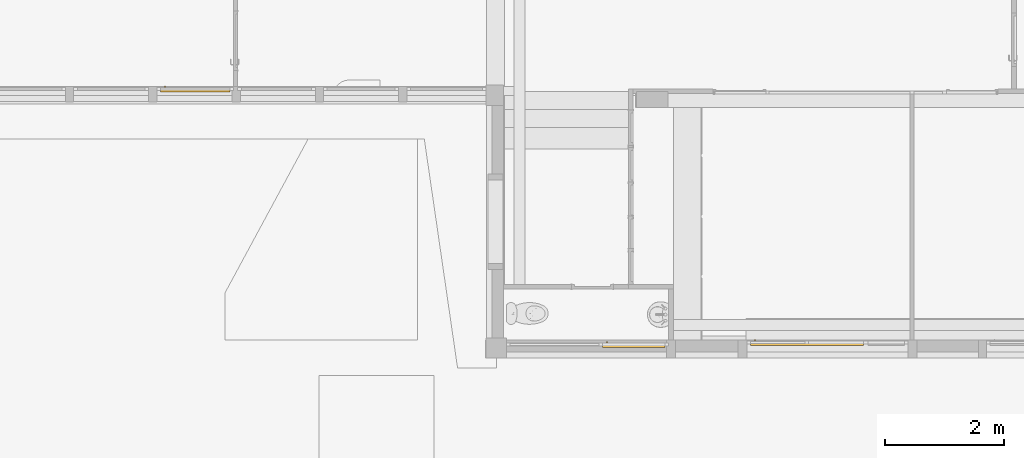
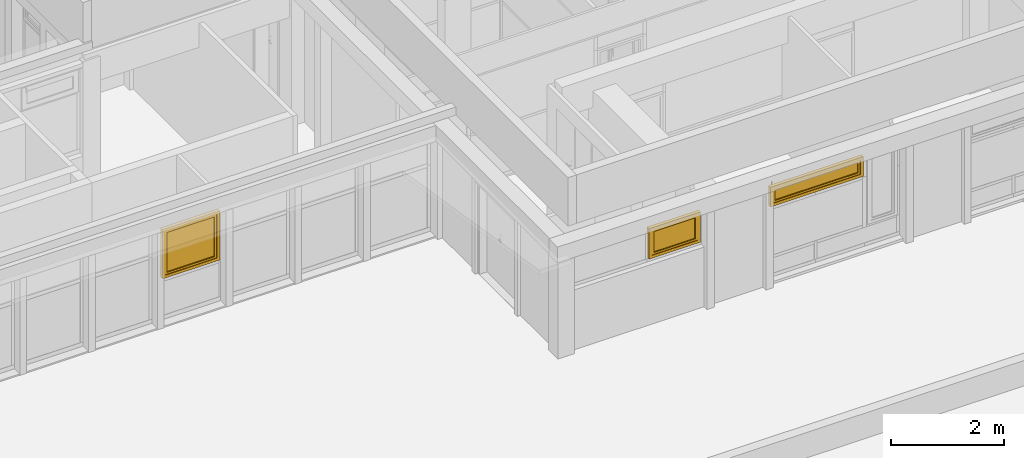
# One storey, part 41 of 49: 3 windows, 3 elements without a shape of their own.
"""IFC4 building model written with IfcOpenShell, lengths in metres."""

from ifc_helpers import new_model, entity, si_unit, converted_unit, derived_unit, direction, frame, origin, place, context, subcontext, project, spatial, polygons, source, transform, mapped, material, material_list, constituent, constituent_set, type_object, type_shapes, element, aggregate, save


model = new_model("IFC4")

# Units and contexts
model_context = context("Model", 3, precision=1e-05, world=origin(), true_north=direction((6.12303176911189e-17, 1.0)))
body_context = subcontext(model_context, "Body", "Model", "MODEL_VIEW")
ifc_project = project(units=[si_unit("LENGTHUNIT", "METRE"), si_unit("AREAUNIT", "SQUARE_METRE"), si_unit("VOLUMEUNIT", "CUBIC_METRE"), converted_unit("PLANEANGLEUNIT", "DEGREE", entity("IfcRatioMeasure", 0.0174532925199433), si_unit("PLANEANGLEUNIT", "RADIAN"), dimensions=[0, 0, 0, 0, 0, 0, 0]), si_unit("MASSUNIT", "GRAM", prefix="KILO"), derived_unit("MASSDENSITYUNIT", [(si_unit("MASSUNIT", "GRAM", prefix="KILO"), 1), (si_unit("LENGTHUNIT", "METRE"), -3)]), derived_unit("MOMENTOFINERTIAUNIT", [(si_unit("LENGTHUNIT", "METRE"), 4)]), si_unit("TIMEUNIT", "SECOND"), si_unit("FREQUENCYUNIT", "HERTZ"), si_unit("THERMODYNAMICTEMPERATUREUNIT", "DEGREE_CELSIUS"), derived_unit("THERMALTRANSMITTANCEUNIT", [(si_unit("MASSUNIT", "GRAM", prefix="KILO"), 1), (si_unit("THERMODYNAMICTEMPERATUREUNIT", "KELVIN"), -1), (si_unit("TIMEUNIT", "SECOND"), -3)]), derived_unit("VOLUMETRICFLOWRATEUNIT", [(si_unit("LENGTHUNIT", "METRE"), 3), (si_unit("TIMEUNIT", "SECOND"), -1)]), si_unit("ELECTRICCURRENTUNIT", "AMPERE"), si_unit("ELECTRICVOLTAGEUNIT", "VOLT"), si_unit("POWERUNIT", "WATT"), si_unit("FORCEUNIT", "NEWTON", prefix="KILO"), si_unit("ILLUMINANCEUNIT", "LUX"), si_unit("LUMINOUSFLUXUNIT", "LUMEN"), si_unit("LUMINOUSINTENSITYUNIT", "CANDELA"), derived_unit("USERDEFINED", [(si_unit("MASSUNIT", "GRAM", prefix="KILO"), -1), (si_unit("LENGTHUNIT", "METRE"), -2), (si_unit("TIMEUNIT", "SECOND"), 3), (si_unit("LUMINOUSFLUXUNIT", "LUMEN"), 1)]), derived_unit("LINEARVELOCITYUNIT", [(si_unit("LENGTHUNIT", "METRE"), 1), (si_unit("TIMEUNIT", "SECOND"), -1)]), si_unit("PRESSUREUNIT", "PASCAL"), derived_unit("USERDEFINED", [(si_unit("LENGTHUNIT", "METRE"), -2), (si_unit("MASSUNIT", "GRAM", prefix="KILO"), 1), (si_unit("TIMEUNIT", "SECOND"), -2)]), derived_unit("LINEARFORCEUNIT", [(si_unit("MASSUNIT", "GRAM", prefix="KILO"), 1), (si_unit("LENGTHUNIT", "METRE"), 1), (si_unit("TIMEUNIT", "SECOND"), -2), (si_unit("LENGTHUNIT", "METRE"), -1)]), derived_unit("PLANARFORCEUNIT", [(si_unit("MASSUNIT", "GRAM", prefix="KILO"), 1), (si_unit("LENGTHUNIT", "METRE"), 1), (si_unit("TIMEUNIT", "SECOND"), -2), (si_unit("LENGTHUNIT", "METRE"), -2)])], contexts=[model_context])

# Site, building, storey
site_placement = place(None, origin())
site = spatial("IfcSite", under=ifc_project, at=site_placement, Name="Default", CompositionType="ELEMENT")
building_placement = place(site_placement, origin())
building = spatial("IfcBuilding", under=site, at=building_placement, Name="HOTEL CONSULAIRE BOULOGNE SUR MER", CompositionType="ELEMENT")
storey_placement = place(building_placement, frame((0.0, 0.0, 6.81974152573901)))
storey = spatial("IfcBuildingStorey", under=building, at=storey_placement, Name="Niveau 2", CompositionType="ELEMENT", Elevation=6.81974152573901)

# Curtain wall, window
curtain_wall_type = type_object("IfcCurtainWallType", Name="Mur-rideau:Simple panneau", PredefinedType="NOTDEFINED")
curtain_wall_1_placement = place(storey_placement, frame((0.0, 0.0, -6.81974152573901)))
curtain_wall_1 = element("IfcCurtainWall", 1, at=curtain_wall_1_placement, inside=storey, type_object=curtain_wall_type, Name="Mur-rideau:Simple panneau", ObjectType="Mur-rideau:Simple panneau", PredefinedType="NOTDEFINED")
ifc_material_1 = material(Name="PVC - Blanc", Category="Plastique")
ifc_constituent_1 = constituent(ifc_material_1, Name="PVC - Blanc", Category="Matériaux")
ifc_material_2 = material(Name="Fenêtre - Vitrage", Category="Verre")
ifc_constituent_2 = constituent(ifc_material_2, Name="Fenêtre - Vitrage", Category="Matériaux")
ifc_constituent_set_1 = constituent_set(constituents=[ifc_constituent_1, ifc_constituent_2], Name="MaterialConstituentSet")
ifc_material_list_1 = material_list([ifc_material_1, ifc_material_1])
window_type_1 = type_object("IfcWindowType", Name="MR 1 Vantail:MR 1 Vantail", PartitioningType="NOTDEFINED", PredefinedType="WINDOW", material=ifc_material_list_1)
shared_shape_1 = source(origin(), body_context, "Body", "Tessellation", [
    polygons([(-0.514128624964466, 0.0492408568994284, 0.472033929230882), (-0.515516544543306, 0.0492408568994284, 0.470646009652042), (-0.515516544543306, 0.0492408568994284, 0.459332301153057), (-0.51415031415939, 0.0492408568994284, 0.457966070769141), (-0.502814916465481, 0.0492408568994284, 0.457966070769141), (-0.501448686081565, 0.0492408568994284, 0.459332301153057), (-0.501448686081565, 0.0492408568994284, 0.470646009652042), (-0.502836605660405, 0.0492408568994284, 0.472033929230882), (-0.514128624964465, 0.0621544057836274, 0.472033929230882), (-0.515516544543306, 0.0615795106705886, 0.470646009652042), (-0.515516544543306, 0.0748868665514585, 0.457338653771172), (-0.515516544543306, 0.0748868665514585, 0.370000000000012), (-0.515516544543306, 0.0635731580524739, 0.370000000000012), (-0.515516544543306, 0.063573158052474, 0.452652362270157), (-0.515516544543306, 0.0568932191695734, 0.459332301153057), (-0.51415031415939, 0.0563273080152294, 0.457966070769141), (-0.502814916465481, 0.0563273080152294, 0.457966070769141), (-0.501448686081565, 0.0568932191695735, 0.459332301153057), (-0.501448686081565, 0.063573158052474, 0.452652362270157), (-0.501448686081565, 0.063573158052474, 0.370000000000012), (-0.501448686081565, 0.0748868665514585, 0.370000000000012), (-0.501448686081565, 0.0748868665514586, 0.457338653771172), (-0.501448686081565, 0.0615795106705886, 0.470646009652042), (-0.502836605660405, 0.0621544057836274, 0.472033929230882), (-0.514128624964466, 0.0762747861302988, 0.457913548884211), (-0.51415031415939, 0.0622069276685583, 0.452086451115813), (-0.502814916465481, 0.0622069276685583, 0.452086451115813), (-0.502836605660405, 0.0762747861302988, 0.457913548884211), (-0.514128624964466, 0.0762747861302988, 0.370000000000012), (-0.502836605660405, 0.0762747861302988, 0.370000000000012), (-0.502814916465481, 0.0622069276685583, 0.370000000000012), (-0.51415031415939, 0.0622069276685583, 0.370000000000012)], [[[5, 6, 7, 8, 1, 2, 3, 4]], [[27, 26, 32, 31]], [[2, 1, 9, 10]], [[2, 10, 11, 12, 13, 14, 15, 3]], [[4, 3, 15, 16]], [[5, 4, 16, 17]], [[32, 13, 12, 29, 30, 21, 20, 31]], [[6, 5, 17, 18]], [[6, 18, 19, 20, 21, 22, 23, 7]], [[8, 7, 23, 24]], [[1, 8, 24, 9]], [[10, 9, 25, 11]], [[16, 15, 14, 26]], [[17, 16, 26, 27]], [[18, 17, 27, 19]], [[24, 23, 22, 28]], [[9, 24, 28, 25]], [[11, 25, 29, 12]], [[26, 14, 13, 32]], [[19, 27, 31, 20]], [[28, 22, 21, 30]], [[25, 28, 30, 29]]], closed=True),
    polygons([(-0.51548261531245, 0.0432408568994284, 0.490000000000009), (-0.520482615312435, 0.0432408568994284, 0.48500000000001), (-0.520482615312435, 0.0432408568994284, 0.414999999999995), (-0.51548261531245, 0.0432408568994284, 0.410000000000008), (-0.501482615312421, 0.0432408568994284, 0.410000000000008), (-0.496482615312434, 0.0432408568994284, 0.414999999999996), (-0.496482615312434, 0.0432408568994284, 0.48500000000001), (-0.501482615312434, 0.0432408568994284, 0.490000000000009), (-0.51548261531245, 0.0492408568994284, 0.490000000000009), (-0.501482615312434, 0.0492408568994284, 0.490000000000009), (-0.496482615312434, 0.0492408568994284, 0.48500000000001), (-0.496482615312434, 0.0492408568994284, 0.414999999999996), (-0.501482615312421, 0.0492408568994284, 0.410000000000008), (-0.51548261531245, 0.0492408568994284, 0.410000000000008), (-0.520482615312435, 0.0492408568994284, 0.414999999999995), (-0.520482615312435, 0.0492408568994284, 0.48500000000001)], [[[1, 2, 3, 4, 5, 6, 7, 8]], [[14, 15, 16, 9, 10, 11, 12, 13]], [[2, 1, 9, 16]], [[3, 2, 16, 15]], [[4, 3, 15, 14]], [[5, 4, 14, 13]], [[6, 5, 13, 12]], [[7, 6, 12, 11]], [[8, 7, 11, 10]], [[1, 8, 10, 9]]], closed=True),
    polygons([(0.48348261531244, 0.0192408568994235, 0.95789394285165), (0.48348261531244, 0.0192408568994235, 0.0999999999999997), (-0.48348261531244, 0.0192408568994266, 0.0999999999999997), (-0.483482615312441, 0.0192408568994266, 0.95789394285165), (0.48348261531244, 0.0072408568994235, 0.95789394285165), (-0.483482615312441, 0.00724085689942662, 0.95789394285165), (-0.483482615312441, 0.00724085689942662, 0.0999999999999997), (0.48348261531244, 0.0072408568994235, 0.0999999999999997)], [[[4, 1, 2, 3]], [[5, 6, 7, 8]], [[5, 1, 4, 6]], [[6, 4, 3, 7]], [[7, 3, 2, 8]], [[8, 2, 1, 5]]], closed=True),
    polygons([(-0.53348261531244, -0.0167591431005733, 1.00789394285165), (0.53348261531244, -0.0167591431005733, 1.00789394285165), (0.53348261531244, 0.043240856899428, 1.00789394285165), (-0.53348261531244, 0.043240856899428, 1.00789394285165), (-0.48348261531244, 0.043240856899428, 0.95789394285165), (0.48348261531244, 0.043240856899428, 0.95789394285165), (0.48348261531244, -0.0167591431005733, 0.95789394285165), (-0.48348261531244, -0.0167591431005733, 0.95789394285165), (0.53348261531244, -0.0167591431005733, 0.0500000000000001), (0.53348261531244, 0.043240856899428, 0.0500000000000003), (0.48348261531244, 0.043240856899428, 0.0999999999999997), (0.48348261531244, -0.0167591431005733, 0.0999999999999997), (-0.53348261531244, -0.0167591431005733, 0.0500000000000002), (-0.53348261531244, 0.043240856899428, 0.0500000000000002), (-0.48348261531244, 0.043240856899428, 0.0999999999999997), (-0.48348261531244, -0.0167591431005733, 0.0999999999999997)], [[[3, 4, 1, 2]], [[15, 16, 12, 11]], [[6, 7, 8, 5]], [[14, 10, 9, 13]], [[10, 3, 2, 9]], [[8, 16, 15, 5]], [[12, 7, 6, 11]], [[1, 4, 14, 13]], [[10, 14, 4, 3], [15, 11, 6, 5]], [[13, 9, 2, 1], [12, 16, 8, 7]]], closed=True),
    polygons([(-0.52348261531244, -0.016759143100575, 0.997893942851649), (0.52348261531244, -0.016759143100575, 0.997893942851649), (0.52348261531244, -0.0267591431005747, 0.997893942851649), (-0.52348261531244, -0.0267591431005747, 0.997893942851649), (-0.53348261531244, 0.0432408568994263, 1.00789394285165), (0.53348261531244, 0.0432408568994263, 1.00789394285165), (0.53348261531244, -0.016759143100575, 1.00789394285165), (-0.53348261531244, -0.016759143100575, 1.00789394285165), (-0.58348261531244, -0.0267591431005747, 1.05789394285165), (0.58348261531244, -0.0267591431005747, 1.05789394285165), (0.58348261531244, 0.0432408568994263, 1.05789394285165), (-0.58348261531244, 0.0432408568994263, 1.05789394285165), (0.52348261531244, -0.016759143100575, 0.0600000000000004), (0.52348261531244, -0.0267591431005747, 0.0600000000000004), (0.53348261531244, 0.0432408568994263, 0.0500000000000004), (0.53348261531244, -0.016759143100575, 0.0500000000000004), (0.58348261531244, -0.0267591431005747, 4.06075173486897e-16), (0.58348261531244, 0.0432408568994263, 4.06075173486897e-16), (-0.52348261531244, -0.016759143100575, 0.0600000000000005), (-0.52348261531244, -0.0267591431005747, 0.0600000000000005), (-0.53348261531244, 0.0432408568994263, 0.0500000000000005), (-0.53348261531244, -0.016759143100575, 0.0500000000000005), (-0.58348261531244, -0.0267591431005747, 4.06075173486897e-16), (-0.58348261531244, 0.0432408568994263, 4.06075173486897e-16)], [[[2, 3, 4, 1]], [[6, 7, 8, 5]], [[23, 24, 18, 17]], [[10, 11, 12, 9]], [[19, 20, 14, 13]], [[21, 22, 16, 15]], [[14, 3, 2, 13]], [[16, 7, 6, 15]], [[9, 12, 24, 23]], [[17, 18, 11, 10]], [[4, 20, 19, 1]], [[8, 22, 21, 5]], [[23, 17, 10, 9], [14, 20, 4, 3]], [[16, 22, 8, 7], [19, 13, 2, 1]], [[18, 24, 12, 11], [21, 15, 6, 5]]], closed=True),
])
type_shapes(window_type_1, [shared_shape_1])
window_1_placement = place(curtain_wall_1_placement, frame((6.48769415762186, -19.6319143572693, 8.39074152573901)))
window_1 = element("IfcWindow", 2, at=window_1_placement, type_object=window_type_1, material=ifc_constituent_set_1, Name="MR 1 Vantail:MR 1 Vantail", ObjectType="MR 1 Vantail:MR 1 Vantail", OverallHeight=1.05789394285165, OverallWidth=1.16696523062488, PartitioningType="NOTDEFINED", PredefinedType="WINDOW", context=body_context, shape_type="MappedRepresentation", body=[
    mapped(shared_shape_1, transform((0.0, 0.0, 0.0), scale=1.0)),
])
aggregate(curtain_wall_1, [window_1])

curtain_wall_2_placement = place(storey_placement, frame((0.0, 0.0, -6.81974152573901)))
curtain_wall_2 = element("IfcCurtainWall", 3, at=curtain_wall_2_placement, inside=storey, type_object=curtain_wall_type, Name="Mur-rideau:Simple panneau", ObjectType="Mur-rideau:Simple panneau", PredefinedType="NOTDEFINED")
ifc_constituent_3 = constituent(ifc_material_1, Name="PVC - Blanc", Category="Matériaux")
ifc_constituent_4 = constituent(ifc_material_2, Name="Fenêtre - Vitrage", Category="Matériaux")
ifc_constituent_set_2 = constituent_set(constituents=[ifc_constituent_3, ifc_constituent_4], Name="MaterialConstituentSet")
ifc_material_list_2 = material_list([ifc_material_1, ifc_material_1])
window_type_2 = type_object("IfcWindowType", Name="MR 1 Vantail:MR 1 Vantail", PartitioningType="NOTDEFINED", PredefinedType="WINDOW", material=ifc_material_list_2)
shared_shape_2 = source(origin(), body_context, "Body", "Tessellation", [
    polygons([(-0.878646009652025, 0.0492408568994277, 0.472033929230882), (-0.880033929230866, 0.0492408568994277, 0.470646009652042), (-0.880033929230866, 0.0492408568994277, 0.459332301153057), (-0.87866769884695, 0.0492408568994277, 0.457966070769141), (-0.867332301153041, 0.0492408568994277, 0.457966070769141), (-0.865966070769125, 0.0492408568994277, 0.459332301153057), (-0.865966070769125, 0.0492408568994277, 0.470646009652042), (-0.867353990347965, 0.0492408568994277, 0.472033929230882), (-0.878646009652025, 0.0621544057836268, 0.472033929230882), (-0.880033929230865, 0.061579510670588, 0.470646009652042), (-0.880033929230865, 0.0748868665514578, 0.457338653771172), (-0.880033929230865, 0.0748868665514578, 0.370000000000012), (-0.880033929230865, 0.0635731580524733, 0.370000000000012), (-0.880033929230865, 0.0635731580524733, 0.452652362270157), (-0.880033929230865, 0.0568932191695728, 0.459332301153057), (-0.87866769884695, 0.0563273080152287, 0.457966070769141), (-0.867332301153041, 0.0563273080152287, 0.457966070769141), (-0.865966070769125, 0.0568932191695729, 0.459332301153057), (-0.865966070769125, 0.0635731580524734, 0.452652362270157), (-0.865966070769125, 0.0635731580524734, 0.370000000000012), (-0.865966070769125, 0.0748868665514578, 0.370000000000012), (-0.865966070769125, 0.0748868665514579, 0.457338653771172), (-0.865966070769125, 0.061579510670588, 0.470646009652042), (-0.867353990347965, 0.0621544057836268, 0.472033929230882), (-0.878646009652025, 0.0762747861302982, 0.457913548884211), (-0.87866769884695, 0.0622069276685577, 0.452086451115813), (-0.867332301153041, 0.0622069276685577, 0.452086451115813), (-0.867353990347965, 0.0762747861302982, 0.457913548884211), (-0.878646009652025, 0.0762747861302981, 0.370000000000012), (-0.867353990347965, 0.0762747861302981, 0.370000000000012), (-0.867332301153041, 0.0622069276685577, 0.370000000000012), (-0.87866769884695, 0.0622069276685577, 0.370000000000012)], [[[5, 6, 7, 8, 1, 2, 3, 4]], [[27, 26, 32, 31]], [[2, 1, 9, 10]], [[2, 10, 11, 12, 13, 14, 15, 3]], [[4, 3, 15, 16]], [[5, 4, 16, 17]], [[32, 13, 12, 29, 30, 21, 20, 31]], [[6, 5, 17, 18]], [[6, 18, 19, 20, 21, 22, 23, 7]], [[8, 7, 23, 24]], [[1, 8, 24, 9]], [[10, 9, 25, 11]], [[16, 15, 14, 26]], [[17, 16, 26, 27]], [[18, 17, 27, 19]], [[24, 23, 22, 28]], [[9, 24, 28, 25]], [[11, 25, 29, 12]], [[26, 14, 13, 32]], [[19, 27, 31, 20]], [[28, 22, 21, 30]], [[25, 28, 30, 29]]], closed=True),
    polygons([(-0.880000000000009, 0.0432408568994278, 0.490000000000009), (-0.884999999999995, 0.0432408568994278, 0.48500000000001), (-0.884999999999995, 0.0432408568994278, 0.414999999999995), (-0.880000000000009, 0.0432408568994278, 0.410000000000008), (-0.865999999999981, 0.0432408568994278, 0.410000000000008), (-0.860999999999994, 0.0432408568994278, 0.414999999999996), (-0.860999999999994, 0.0432408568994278, 0.48500000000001), (-0.865999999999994, 0.0432408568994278, 0.490000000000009), (-0.880000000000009, 0.0492408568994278, 0.490000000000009), (-0.865999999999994, 0.0492408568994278, 0.490000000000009), (-0.860999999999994, 0.0492408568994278, 0.48500000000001), (-0.860999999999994, 0.0492408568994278, 0.414999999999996), (-0.865999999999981, 0.0492408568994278, 0.410000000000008), (-0.880000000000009, 0.0492408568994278, 0.410000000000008), (-0.884999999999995, 0.0492408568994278, 0.414999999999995), (-0.884999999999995, 0.0492408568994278, 0.48500000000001)], [[[1, 2, 3, 4, 5, 6, 7, 8]], [[14, 15, 16, 9, 10, 11, 12, 13]], [[2, 1, 9, 16]], [[3, 2, 16, 15]], [[4, 3, 15, 14]], [[5, 4, 14, 13]], [[6, 5, 13, 12]], [[7, 6, 12, 11]], [[8, 7, 11, 10]], [[1, 8, 10, 9]]], closed=True),
    polygons([(0.848, 0.0192408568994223, 0.32200000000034), (0.848, 0.0192408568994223, 0.0999999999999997), (-0.848, 0.0192408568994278, 0.0999999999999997), (-0.848, 0.0192408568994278, 0.32200000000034), (0.848, 0.00724085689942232, 0.32200000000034), (-0.848, 0.00724085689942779, 0.32200000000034), (-0.848, 0.00724085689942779, 0.0999999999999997), (0.848, 0.00724085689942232, 0.0999999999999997)], [[[3, 4, 1, 2]], [[8, 5, 6, 7]], [[6, 5, 1, 4]], [[7, 6, 4, 3]], [[7, 3, 2, 8]], [[5, 8, 2, 1]]], closed=True),
    polygons([(-0.898, -0.0167591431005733, 0.372000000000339), (0.898, -0.0167591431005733, 0.372000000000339), (0.898, 0.043240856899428, 0.372000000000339), (-0.898, 0.043240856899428, 0.372000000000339), (-0.848, 0.043240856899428, 0.32200000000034), (0.848, 0.043240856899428, 0.32200000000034), (0.848, -0.0167591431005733, 0.32200000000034), (-0.848, -0.0167591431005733, 0.32200000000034), (0.898, -0.0167591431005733, 0.0500000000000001), (0.898, 0.043240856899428, 0.0500000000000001), (0.848, 0.043240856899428, 0.0999999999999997), (0.848, -0.0167591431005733, 0.0999999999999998), (-0.898, -0.0167591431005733, 0.05), (-0.898, 0.043240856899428, 0.05), (-0.848, 0.043240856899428, 0.0999999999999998), (-0.848, -0.0167591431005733, 0.0999999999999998)], [[[2, 3, 4, 1]], [[16, 12, 11, 15]], [[7, 8, 5, 6]], [[13, 14, 10, 9]], [[10, 3, 2, 9]], [[5, 8, 16, 15]], [[12, 7, 6, 11]], [[4, 14, 13, 1]], [[14, 4, 3, 10], [11, 6, 5, 15]], [[9, 2, 1, 13], [16, 8, 7, 12]]], closed=True),
    polygons([(-0.888, -0.016759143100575, 0.362000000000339), (0.888, -0.016759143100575, 0.362000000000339), (0.888, -0.0267591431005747, 0.362000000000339), (-0.888, -0.0267591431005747, 0.362000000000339), (-0.898, 0.0432408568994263, 0.372000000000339), (0.898, 0.0432408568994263, 0.372000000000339), (0.898, -0.016759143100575, 0.372000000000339), (-0.898, -0.016759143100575, 0.372000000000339), (-0.948, -0.0267591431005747, 0.422000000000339), (0.948, -0.0267591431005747, 0.422000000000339), (0.947999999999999, 0.0432408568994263, 0.422000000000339), (-0.948, 0.0432408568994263, 0.422000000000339), (0.888, -0.016759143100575, 0.0600000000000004), (0.888, -0.0267591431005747, 0.0600000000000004), (0.898, 0.0432408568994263, 0.0500000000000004), (0.898, -0.016759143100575, 0.0500000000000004), (0.948, -0.0267591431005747, 4.06075173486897e-16), (0.948, 0.0432408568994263, 4.06075173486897e-16), (-0.888, -0.016759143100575, 0.0600000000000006), (-0.888, -0.0267591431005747, 0.0600000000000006), (-0.898, 0.0432408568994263, 0.0500000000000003), (-0.898, -0.016759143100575, 0.0500000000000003), (-0.948, -0.0267591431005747, 4.73754369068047e-16), (-0.947999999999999, 0.0432408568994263, 4.73754369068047e-16)], [[[2, 3, 4, 1]], [[6, 7, 8, 5]], [[24, 18, 17, 23]], [[11, 12, 9, 10]], [[19, 20, 14, 13]], [[21, 22, 16, 15]], [[14, 3, 2, 13]], [[15, 16, 7, 6]], [[12, 24, 23, 9]], [[18, 11, 10, 17]], [[4, 20, 19, 1]], [[5, 8, 22, 21]], [[17, 10, 9, 23], [20, 4, 3, 14]], [[22, 8, 7, 16], [13, 2, 1, 19]], [[24, 12, 11, 18], [15, 6, 5, 21]]], closed=True),
])
type_shapes(window_type_2, [shared_shape_2])
window_2_placement = place(curtain_wall_2_placement, frame((16.7700413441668, -23.8933633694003, 9.04974152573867)))
window_2 = element("IfcWindow", 4, at=window_2_placement, type_object=window_type_2, material=ifc_constituent_set_2, Name="MR 1 Vantail:MR 1 Vantail", ObjectType="MR 1 Vantail:MR 1 Vantail", OverallHeight=0.490000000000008, OverallWidth=1.896, PartitioningType="NOTDEFINED", PredefinedType="WINDOW", context=body_context, shape_type="MappedRepresentation", body=[
    mapped(shared_shape_2, transform((0.0, 0.0, 0.0), scale=1.0)),
])
aggregate(curtain_wall_2, [window_2])

curtain_wall_3_placement = place(storey_placement, frame((0.0, 0.0, -6.81974152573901)))
curtain_wall_3 = element("IfcCurtainWall", 5, at=curtain_wall_3_placement, inside=storey, type_object=curtain_wall_type, Name="Mur-rideau:Simple panneau", ObjectType="Mur-rideau:Simple panneau", PredefinedType="NOTDEFINED")
ifc_constituent_5 = constituent(ifc_material_1, Name="PVC - Blanc", Category="Matériaux")
ifc_constituent_6 = constituent(ifc_material_2, Name="Fenêtre - Vitrage", Category="Matériaux")
ifc_constituent_set_3 = constituent_set(constituents=[ifc_constituent_5, ifc_constituent_6], Name="MaterialConstituentSet")
ifc_material_list_3 = material_list([ifc_material_1, ifc_material_1])
window_type_3 = type_object("IfcWindowType", Name="MR 1 Vantail:MR 1 Vantail", PartitioningType="NOTDEFINED", PredefinedType="WINDOW", material=ifc_material_list_3)
shared_shape_3 = source(origin(), body_context, "Body", "Tessellation", [
    polygons([(-0.454146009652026, 0.0492408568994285, 0.472033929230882), (-0.455533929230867, 0.0492408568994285, 0.470646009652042), (-0.455533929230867, 0.0492408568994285, 0.459332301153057), (-0.454167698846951, 0.0492408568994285, 0.457966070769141), (-0.442832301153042, 0.0492408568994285, 0.457966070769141), (-0.441466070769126, 0.0492408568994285, 0.459332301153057), (-0.441466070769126, 0.0492408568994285, 0.470646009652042), (-0.442853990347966, 0.0492408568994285, 0.472033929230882), (-0.454146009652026, 0.0621544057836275, 0.472033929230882), (-0.455533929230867, 0.0615795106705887, 0.470646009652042), (-0.455533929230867, 0.0748868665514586, 0.457338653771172), (-0.455533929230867, 0.0748868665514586, 0.370000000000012), (-0.455533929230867, 0.063573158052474, 0.370000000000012), (-0.455533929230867, 0.0635731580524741, 0.452652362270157), (-0.455533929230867, 0.0568932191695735, 0.459332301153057), (-0.454167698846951, 0.0563273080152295, 0.457966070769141), (-0.442832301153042, 0.0563273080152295, 0.457966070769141), (-0.441466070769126, 0.0568932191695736, 0.459332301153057), (-0.441466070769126, 0.0635731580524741, 0.452652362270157), (-0.441466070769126, 0.0635731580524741, 0.370000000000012), (-0.441466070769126, 0.0748868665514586, 0.370000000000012), (-0.441466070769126, 0.0748868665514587, 0.457338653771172), (-0.441466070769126, 0.0615795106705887, 0.470646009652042), (-0.442853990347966, 0.0621544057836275, 0.472033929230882), (-0.454146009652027, 0.0762747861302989, 0.457913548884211), (-0.454167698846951, 0.0622069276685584, 0.452086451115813), (-0.442832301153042, 0.0622069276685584, 0.452086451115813), (-0.442853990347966, 0.0762747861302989, 0.457913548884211), (-0.454146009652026, 0.0762747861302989, 0.370000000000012), (-0.442853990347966, 0.0762747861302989, 0.370000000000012), (-0.442832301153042, 0.0622069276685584, 0.370000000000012), (-0.454167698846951, 0.0622069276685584, 0.370000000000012)], [[[5, 6, 7, 8, 1, 2, 3, 4]], [[27, 26, 32, 31]], [[2, 1, 9, 10]], [[2, 10, 11, 12, 13, 14, 15, 3]], [[4, 3, 15, 16]], [[5, 4, 16, 17]], [[32, 13, 12, 29, 30, 21, 20, 31]], [[6, 5, 17, 18]], [[6, 18, 19, 20, 21, 22, 23, 7]], [[8, 7, 23, 24]], [[1, 8, 24, 9]], [[10, 9, 25, 11]], [[16, 15, 14, 26]], [[17, 16, 26, 27]], [[18, 17, 27, 19]], [[24, 23, 22, 28]], [[9, 24, 28, 25]], [[11, 25, 29, 12]], [[26, 14, 13, 32]], [[19, 27, 31, 20]], [[28, 22, 21, 30]], [[25, 28, 30, 29]]], closed=True),
    polygons([(-0.455500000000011, 0.0432408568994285, 0.490000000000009), (-0.460499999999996, 0.0432408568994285, 0.48500000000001), (-0.460499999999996, 0.0432408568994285, 0.414999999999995), (-0.455500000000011, 0.0432408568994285, 0.410000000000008), (-0.441499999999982, 0.0432408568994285, 0.410000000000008), (-0.436499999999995, 0.0432408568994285, 0.414999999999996), (-0.436499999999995, 0.0432408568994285, 0.48500000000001), (-0.441499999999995, 0.0432408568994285, 0.490000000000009), (-0.455500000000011, 0.0492408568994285, 0.490000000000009), (-0.441499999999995, 0.0492408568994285, 0.490000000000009), (-0.436499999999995, 0.0492408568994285, 0.48500000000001), (-0.436499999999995, 0.0492408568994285, 0.414999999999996), (-0.441499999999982, 0.0492408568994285, 0.410000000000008), (-0.455500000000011, 0.0492408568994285, 0.410000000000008), (-0.460499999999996, 0.0492408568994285, 0.414999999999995), (-0.460499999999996, 0.0492408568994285, 0.48500000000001)], [[[1, 2, 3, 4, 5, 6, 7, 8]], [[14, 15, 16, 9, 10, 11, 12, 13]], [[2, 1, 9, 16]], [[3, 2, 16, 15]], [[4, 3, 15, 14]], [[5, 4, 14, 13]], [[6, 5, 13, 12]], [[7, 6, 12, 11]], [[8, 7, 11, 10]], [[1, 8, 10, 9]]], closed=True),
    polygons([(0.423500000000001, 0.0192408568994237, 0.552628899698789), (0.423500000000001, 0.0192408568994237, 0.0999999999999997), (-0.423500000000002, 0.0192408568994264, 0.0999999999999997), (-0.423500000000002, 0.0192408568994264, 0.552628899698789), (0.423500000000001, 0.00724085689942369, 0.552628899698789), (-0.423500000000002, 0.00724085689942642, 0.552628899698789), (-0.423500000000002, 0.00724085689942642, 0.0999999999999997), (0.423500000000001, 0.00724085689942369, 0.0999999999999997)], [[[4, 1, 2, 3]], [[5, 6, 7, 8]], [[5, 1, 4, 6]], [[6, 4, 3, 7]], [[7, 3, 2, 8]], [[8, 2, 1, 5]]], closed=True),
    polygons([(-0.473500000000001, -0.0167591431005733, 0.602628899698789), (0.473500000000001, -0.0167591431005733, 0.602628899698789), (0.473500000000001, 0.043240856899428, 0.602628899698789), (-0.473500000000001, 0.043240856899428, 0.602628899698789), (-0.423500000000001, 0.043240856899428, 0.552628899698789), (0.423500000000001, 0.043240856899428, 0.552628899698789), (0.423500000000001, -0.0167591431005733, 0.552628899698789), (-0.423500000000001, -0.0167591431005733, 0.552628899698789), (0.473500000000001, -0.0167591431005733, 0.0500000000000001), (0.473500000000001, 0.043240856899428, 0.0500000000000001), (0.423500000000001, 0.043240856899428, 0.0999999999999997), (0.423500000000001, -0.0167591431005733, 0.0999999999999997), (-0.473500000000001, -0.0167591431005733, 0.0500000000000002), (-0.473500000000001, 0.043240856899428, 0.0500000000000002), (-0.423500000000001, 0.043240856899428, 0.0999999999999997), (-0.423500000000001, -0.0167591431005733, 0.0999999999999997)], [[[3, 4, 1, 2]], [[16, 12, 11, 15]], [[7, 8, 5, 6]], [[14, 10, 9, 13]], [[9, 10, 3, 2]], [[5, 8, 16, 15]], [[11, 12, 7, 6]], [[1, 4, 14, 13]], [[10, 14, 4, 3], [15, 11, 6, 5]], [[13, 9, 2, 1], [12, 16, 8, 7]]], closed=True),
    polygons([(-0.463500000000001, -0.016759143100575, 0.592628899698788), (0.463500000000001, -0.016759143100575, 0.592628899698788), (0.463500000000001, -0.0267591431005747, 0.592628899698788), (-0.463500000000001, -0.0267591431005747, 0.592628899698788), (-0.473500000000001, 0.0432408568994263, 0.602628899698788), (0.473500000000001, 0.0432408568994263, 0.602628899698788), (0.473500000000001, -0.016759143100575, 0.602628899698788), (-0.473500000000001, -0.016759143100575, 0.602628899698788), (-0.523500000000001, -0.0267591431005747, 0.652628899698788), (0.523500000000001, -0.0267591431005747, 0.652628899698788), (0.523500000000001, 0.0432408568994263, 0.652628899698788), (-0.523500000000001, 0.0432408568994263, 0.652628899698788), (0.463500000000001, -0.016759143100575, 0.0600000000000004), (0.463500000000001, -0.0267591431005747, 0.0600000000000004), (0.473500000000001, 0.0432408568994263, 0.0500000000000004), (0.473500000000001, -0.016759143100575, 0.0500000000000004), (0.523500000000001, -0.0267591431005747, 4.06075173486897e-16), (0.523500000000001, 0.0432408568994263, 4.06075173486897e-16), (-0.463500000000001, -0.016759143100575, 0.0600000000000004), (-0.463500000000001, -0.0267591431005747, 0.0600000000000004), (-0.473500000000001, 0.0432408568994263, 0.0500000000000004), (-0.473500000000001, -0.016759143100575, 0.0500000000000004), (-0.523500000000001, -0.0267591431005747, 3.38395977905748e-16), (-0.523500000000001, 0.0432408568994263, 3.38395977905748e-16)], [[[3, 4, 1, 2]], [[6, 7, 8, 5]], [[24, 18, 17, 23]], [[11, 12, 9, 10]], [[20, 14, 13, 19]], [[21, 22, 16, 15]], [[14, 3, 2, 13]], [[15, 16, 7, 6]], [[9, 12, 24, 23]], [[17, 18, 11, 10]], [[4, 20, 19, 1]], [[5, 8, 22, 21]], [[23, 17, 10, 9], [14, 20, 4, 3]], [[16, 22, 8, 7], [19, 13, 2, 1]], [[18, 24, 12, 11], [21, 15, 6, 5]]], closed=True),
])
type_shapes(window_type_3, [shared_shape_3])
window_3_placement = place(curtain_wall_3_placement, frame((13.8584086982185, -23.9271007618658, 8.81911262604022)))
window_3 = element("IfcWindow", 6, at=window_3_placement, type_object=window_type_3, material=ifc_constituent_set_3, Name="MR 1 Vantail:MR 1 Vantail", ObjectType="MR 1 Vantail:MR 1 Vantail", OverallHeight=0.652628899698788, OverallWidth=1.047, PartitioningType="NOTDEFINED", PredefinedType="WINDOW", context=body_context, shape_type="MappedRepresentation", body=[
    mapped(shared_shape_3, transform((0.0, 0.0, 0.0), scale=1.0)),
])
aggregate(curtain_wall_3, [window_3])

save(model, "model.ifc")
